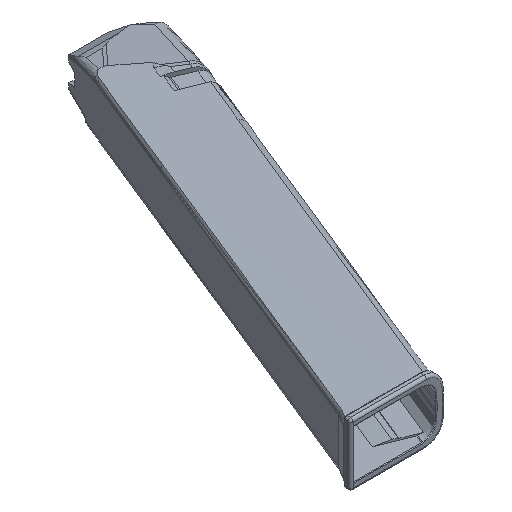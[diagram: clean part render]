
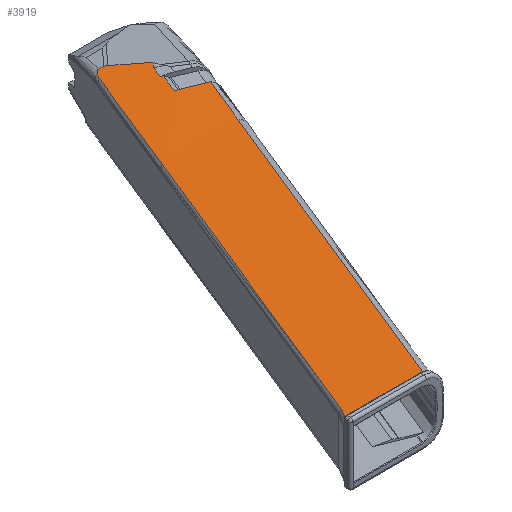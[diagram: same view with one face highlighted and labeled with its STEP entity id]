
A CAD part, isometric view. The second image highlights one B-rep face of the part: STEP entity #3919.
In plain terms, the highlighted cylindrical face has radius 941.89 mm (diameter 1883.78 mm), a partial arc.
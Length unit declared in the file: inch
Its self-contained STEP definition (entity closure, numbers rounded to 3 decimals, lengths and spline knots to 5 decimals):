
#238=CYLINDRICAL_SURFACE('',#4276,37.08227);
#266=ELLIPSE('',#4093,37.23056,37.08227);
#270=ELLIPSE('',#4099,37.23056,37.08227);
#272=ELLIPSE('',#4103,141.25472,37.08227);
#274=ELLIPSE('',#4107,279.84842,37.08227);
#313=ELLIPSE('',#4196,218.6658,37.08227);
#343=ELLIPSE('',#4277,40.01527,37.08227);
#438=B_SPLINE_CURVE_WITH_KNOTS('',3,(#6869,#6870,#6871,#6872,#6873,#6874,
#6875),.UNSPECIFIED.,.F.,.F.,(4,3,4),(-0.2198,-0.1083,
0.),.UNSPECIFIED.);
#439=B_SPLINE_CURVE_WITH_KNOTS('',3,(#6886,#6887,#6888,#6889,#6890,#6891,
#6892,#6893,#6894,#6895),.UNSPECIFIED.,.F.,.F.,(4,2,2,2,4),(-0.26292,
-0.24033,-0.21179,-0.13347,0.),
 .UNSPECIFIED.);
#440=B_SPLINE_CURVE_WITH_KNOTS('',3,(#6903,#6904,#6905,#6906,#6907,#6908,
#6909,#6910),.UNSPECIFIED.,.F.,.F.,(4,2,2,4),(-5.94785,-5.9006,
-5.85108,-5.82958),.UNSPECIFIED.);
#459=B_SPLINE_CURVE_WITH_KNOTS('',3,(#7513,#7514,#7515,#7516),
 .UNSPECIFIED.,.F.,.F.,(4,4),(10.17278,10.65762),
 .UNSPECIFIED.);
#691=FACE_OUTER_BOUND('',#917,.T.);
#917=EDGE_LOOP('',(#3313,#3314,#3315,#3316,#3317,#3318,#3319,#3320,#3321,
#3322,#3323,#3324,#3325,#3326,#3327,#3328));
#1035=LINE('',#5605,#1329);
#1040=LINE('',#5639,#1334);
#1046=LINE('',#5659,#1340);
#1050=LINE('',#5701,#1344);
#1218=LINE('',#7484,#1512);
#1223=LINE('',#7519,#1517);
#1329=VECTOR('',#4491,0.3937);
#1334=VECTOR('',#4504,0.3937);
#1340=VECTOR('',#4524,0.3937);
#1344=VECTOR('',#4546,0.3937);
#1512=VECTOR('',#5048,0.3937);
#1517=VECTOR('',#5065,0.3937);
#1616=VERTEX_POINT('',#5586);
#1618=VERTEX_POINT('',#5604);
#1621=VERTEX_POINT('',#5616);
#1627=VERTEX_POINT('',#5637);
#1632=VERTEX_POINT('',#5650);
#1634=VERTEX_POINT('',#5657);
#1637=VERTEX_POINT('',#5666);
#1638=VERTEX_POINT('',#5687);
#1641=VERTEX_POINT('',#5697);
#1649=VERTEX_POINT('',#5721);
#1774=VERTEX_POINT('',#6868);
#1776=VERTEX_POINT('',#6885);
#1777=VERTEX_POINT('',#6899);
#1859=VERTEX_POINT('',#7482);
#1864=VERTEX_POINT('',#7512);
#1865=VERTEX_POINT('',#7517);
#2003=EDGE_CURVE('',#1616,#1618,#1035,.T.);
#2013=EDGE_CURVE('',#1627,#1621,#1040,.T.);
#2019=EDGE_CURVE('',#1632,#1627,#266,.F.);
#2023=EDGE_CURVE('',#1634,#1632,#1046,.T.);
#2028=EDGE_CURVE('',#1634,#1637,#270,.F.);
#2033=EDGE_CURVE('',#1638,#1641,#272,.T.);
#2034=EDGE_CURVE('',#1637,#1638,#1050,.T.);
#2044=EDGE_CURVE('',#1641,#1649,#274,.T.);
#2221=EDGE_CURVE('',#1774,#1618,#438,.T.);
#2224=EDGE_CURVE('',#1776,#1774,#439,.T.);
#2227=EDGE_CURVE('',#1777,#1776,#313,.T.);
#2229=EDGE_CURVE('',#1649,#1777,#440,.T.);
#2365=EDGE_CURVE('',#1859,#1616,#1218,.T.);
#2373=EDGE_CURVE('',#1859,#1864,#459,.T.);
#2374=EDGE_CURVE('',#1864,#1865,#343,.T.);
#2375=EDGE_CURVE('',#1621,#1865,#1223,.T.);
#3313=ORIENTED_EDGE('',*,*,#2365,.F.);
#3314=ORIENTED_EDGE('',*,*,#2373,.T.);
#3315=ORIENTED_EDGE('',*,*,#2374,.T.);
#3316=ORIENTED_EDGE('',*,*,#2375,.F.);
#3317=ORIENTED_EDGE('',*,*,#2013,.F.);
#3318=ORIENTED_EDGE('',*,*,#2019,.F.);
#3319=ORIENTED_EDGE('',*,*,#2023,.F.);
#3320=ORIENTED_EDGE('',*,*,#2028,.T.);
#3321=ORIENTED_EDGE('',*,*,#2034,.T.);
#3322=ORIENTED_EDGE('',*,*,#2033,.T.);
#3323=ORIENTED_EDGE('',*,*,#2044,.T.);
#3324=ORIENTED_EDGE('',*,*,#2229,.T.);
#3325=ORIENTED_EDGE('',*,*,#2227,.T.);
#3326=ORIENTED_EDGE('',*,*,#2224,.T.);
#3327=ORIENTED_EDGE('',*,*,#2221,.T.);
#3328=ORIENTED_EDGE('',*,*,#2003,.F.);
#3919=ADVANCED_FACE('',(#691),#238,.T.);
#4093=AXIS2_PLACEMENT_3D('',#5652,#4516,#4517);
#4099=AXIS2_PLACEMENT_3D('',#5668,#4533,#4534);
#4103=AXIS2_PLACEMENT_3D('',#5699,#4542,#4543);
#4107=AXIS2_PLACEMENT_3D('',#5723,#4558,#4559);
#4196=AXIS2_PLACEMENT_3D('',#6900,#4816,#4817);
#4276=AXIS2_PLACEMENT_3D('',#7511,#5061,#5062);
#4277=AXIS2_PLACEMENT_3D('',#7518,#5063,#5064);
#4491=DIRECTION('',(0.376,0.927,0.));
#4504=DIRECTION('',(-0.376,-0.927,0.));
#4516=DIRECTION('center_axis',(-0.375,-0.923,-0.089));
#4517=DIRECTION('ref_axis',(0.035,0.082,-0.996));
#4524=DIRECTION('',(-0.378,-0.926,0.));
#4533=DIRECTION('center_axis',(0.375,0.923,0.089));
#4534=DIRECTION('ref_axis',(0.035,0.082,-0.996));
#4542=DIRECTION('center_axis',(-0.668,0.554,0.497));
#4543=DIRECTION('ref_axis',(0.572,0.809,-0.135));
#4546=DIRECTION('',(0.376,0.927,0.));
#4558=DIRECTION('center_axis',(-0.075,-0.113,-0.991));
#4559=DIRECTION('ref_axis',(0.37,0.92,-0.132));
#4816=DIRECTION('center_axis',(0.,-0.183,-0.983));
#4817=DIRECTION('ref_axis',(0.382,0.909,-0.169));
#5048=DIRECTION('',(0.376,0.927,0.));
#5061=DIRECTION('center_axis',(-0.376,-0.927,0.));
#5062=DIRECTION('ref_axis',(0.031,-0.013,-0.999));
#5063=DIRECTION('center_axis',(0.,1.,0.));
#5064=DIRECTION('ref_axis',(1.,0.,0.));
#5065=DIRECTION('',(-0.376,-0.927,0.));
#5586=CARTESIAN_POINT('',(2.67099,4.85181,0.42907));
#5604=CARTESIAN_POINT('',(3.3442,6.50972,0.42907));
#5605=CARTESIAN_POINT('',(2.04438,3.30866,0.42907));
#5616=CARTESIAN_POINT('',(3.86262,4.85125,0.43956));
#5637=CARTESIAN_POINT('',(4.16405,5.59358,0.43956));
#5639=CARTESIAN_POINT('',(3.06754,2.8932,0.43956));
#5650=CARTESIAN_POINT('',(3.75896,5.75801,0.43934));
#5652=CARTESIAN_POINT('Origin',(5.22771,8.74441,-36.64217));
#5657=CARTESIAN_POINT('',(3.87605,6.04466,0.43934));
#5659=CARTESIAN_POINT('',(3.87605,6.04466,0.43934));
#5666=CARTESIAN_POINT('',(3.84122,6.05882,0.43908));
#5668=CARTESIAN_POINT('Origin',(5.3442,9.0313,-36.64217));
#5687=CARTESIAN_POINT('',(3.90893,6.22556,0.43908));
#5697=CARTESIAN_POINT('',(3.97829,6.30887,0.43931));
#5699=CARTESIAN_POINT('Origin',(30.90391,71.97728,-36.64217));
#5701=CARTESIAN_POINT('',(2.62823,3.07158,0.43908));
#5721=CARTESIAN_POINT('',(3.5836,6.6282,0.43297));
#5723=CARTESIAN_POINT('Origin',(108.49886,263.07059,-36.64217));
#6868=CARTESIAN_POINT('',(3.38558,6.58631,0.4293));
#6869=CARTESIAN_POINT('Ctrl Pts',(3.38558,6.58631,0.4293));
#6870=CARTESIAN_POINT('Ctrl Pts',(3.37695,6.57451,0.42921));
#6871=CARTESIAN_POINT('Ctrl Pts',(3.36914,6.56155,0.42916));
#6872=CARTESIAN_POINT('Ctrl Pts',(3.36229,6.54862,0.42912));
#6873=CARTESIAN_POINT('Ctrl Pts',(3.35564,6.53607,0.42908));
#6874=CARTESIAN_POINT('Ctrl Pts',(3.34955,6.52289,0.42907));
#6875=CARTESIAN_POINT('Ctrl Pts',(3.3442,6.50972,0.42907));
#6885=CARTESIAN_POINT('',(3.46437,6.65452,0.43041));
#6886=CARTESIAN_POINT('Ctrl Pts',(3.46437,6.65452,0.43041));
#6887=CARTESIAN_POINT('Ctrl Pts',(3.46141,6.65488,0.43035));
#6888=CARTESIAN_POINT('Ctrl Pts',(3.45841,6.65447,0.43029));
#6889=CARTESIAN_POINT('Ctrl Pts',(3.45193,6.65262,0.43016));
#6890=CARTESIAN_POINT('Ctrl Pts',(3.44837,6.65089,0.4301));
#6891=CARTESIAN_POINT('Ctrl Pts',(3.43626,6.64373,0.4299));
#6892=CARTESIAN_POINT('Ctrl Pts',(3.42739,6.63562,0.42978));
#6893=CARTESIAN_POINT('Ctrl Pts',(3.40798,6.61573,0.42953));
#6894=CARTESIAN_POINT('Ctrl Pts',(3.39591,6.60046,0.4294));
#6895=CARTESIAN_POINT('Ctrl Pts',(3.38558,6.58631,0.4293));
#6899=CARTESIAN_POINT('',(3.53924,6.64596,0.432));
#6900=CARTESIAN_POINT('Origin',(85.23596,205.78097,-36.64217));
#6903=CARTESIAN_POINT('Ctrl Pts',(3.5836,6.6282,0.43297));
#6904=CARTESIAN_POINT('Ctrl Pts',(3.57892,6.63234,0.43285));
#6905=CARTESIAN_POINT('Ctrl Pts',(3.57325,6.63599,0.43272));
#6906=CARTESIAN_POINT('Ctrl Pts',(3.56075,6.64163,0.43244));
#6907=CARTESIAN_POINT('Ctrl Pts',(3.55389,6.64356,0.4323));
#6908=CARTESIAN_POINT('Ctrl Pts',(3.54473,6.64526,0.43211));
#6909=CARTESIAN_POINT('Ctrl Pts',(3.54197,6.64566,0.43205));
#6910=CARTESIAN_POINT('Ctrl Pts',(3.53924,6.64596,0.432));
#7482=CARTESIAN_POINT('',(0.74867,0.11769,0.42907));
#7484=CARTESIAN_POINT('',(0.83456,0.32922,0.42907));
#7511=CARTESIAN_POINT('Origin',(1.67249,-0.01103,-36.64217));
#7512=CARTESIAN_POINT('',(0.64187,-0.05507,0.42822));
#7513=CARTESIAN_POINT('Ctrl Pts',(0.74867,0.11769,0.42907));
#7514=CARTESIAN_POINT('Ctrl Pts',(0.71292,0.05986,
0.42879));
#7515=CARTESIAN_POINT('Ctrl Pts',(0.67732,0.00227,
0.42851));
#7516=CARTESIAN_POINT('Ctrl Pts',(0.64187,-0.05507,
0.42822));
#7517=CARTESIAN_POINT('',(1.87014,-0.05564,0.43956));
#7518=CARTESIAN_POINT('Origin',(1.65442,-0.05554,-36.64217));
#7519=CARTESIAN_POINT('',(1.85772,-0.08624,0.43956));
